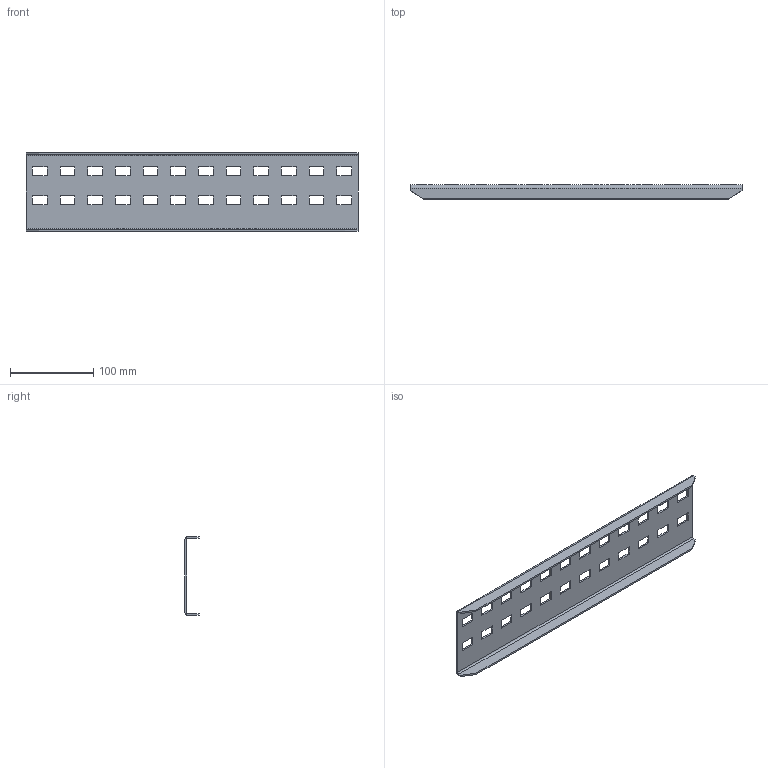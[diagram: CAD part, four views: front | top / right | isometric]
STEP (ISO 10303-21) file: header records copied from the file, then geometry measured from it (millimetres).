
FILE_DESCRIPTION(('Creo Elements/Direct Modeling STEP Export'),'2;1');
FILE_NAME('WPC10-HDG.stp','2020-12-14T12:48:41',(''),(''),'PTC Creo Elements/Direct Modeling STEP processor for AP214 (Solid Model)','PTC Creo Elements/Direct Modeling 19.0C 15-Aug-2015 (C) Parametric Technology GmbH','');
FILE_SCHEMA(('AUTOMOTIVE_DESIGN { 1 0 10303 214 1 1 1 1 }'));
Length unit declared in the file: millimetre
Products named in the file (2): WPC10-HGD
Assembly tree (1 placements, depth 2):
  WPC10-HGD
    WPC10-HGD
Bounding box: 399.6 x 17 x 95 mm (x, y, z)
Volume: 87698.9 mm3; surface area: 92501.6 mm2
Topology: 1 solids, 1 shells, 210 faces, 624 edges, 416 vertices
Faces by surface type: plane 110, cylinder 100
Entity records: 7229 total; most frequent: CARTESIAN_POINT 1252, DIRECTION 1248, ORIENTED_EDGE 1248, EDGE_CURVE 624, VECTOR 424, LINE 424, VERTEX_POINT 416, AXIS2_PLACEMENT_3D 412
